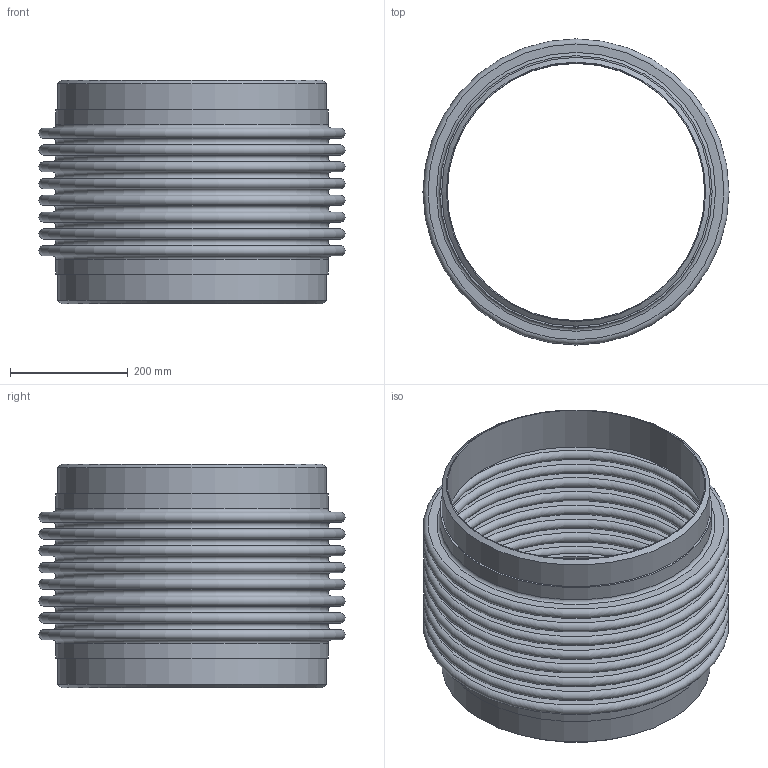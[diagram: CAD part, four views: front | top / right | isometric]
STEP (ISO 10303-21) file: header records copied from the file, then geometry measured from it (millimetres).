
FILE_DESCRIPTION(/* description */ ('EXPANSION JOINT,SINGLE, WELD ENDS,4 INCH NOMINAL'),/* implementation_level */ '2;1');
FILE_NAME(/* name */ 'US-18-300S- WELD-ENDS.stp',/* time_stamp */ '2026-07-28T11:14:14-05:00',/* author */ ('jorgef'),/* organization */ (''),/* preprocessor_version */ 'ST-DEVELOPER v20.1',/* originating_system */ 'Autodesk Inventor 2026',/* authorisation */ '');
FILE_SCHEMA (('AUTOMOTIVE_DESIGN { 1 0 10303 214 3 1 1 }'));
Length unit declared in the file: inch
Products named in the file (3): SINGLE STOCK  BELLOW WELDED ENDS  18-300 PSIG; STOCK BELLOW - US-18-8-300S; PIPE- 18-300 PSIG
Assembly tree (3 placements, depth 2):
  SINGLE STOCK  BELLOW WELDED ENDS  18-300 PSIG
    STOCK BELLOW - US-18-8-300S
    PIPE- 18-300 PSIG  x2
Bounding box: 520.7 x 520.7 x 381 mm (x, y, z)
Volume: 4957846.7 mm3; surface area: 2455650.1 mm2
Topology: 5 solids, 5 shells, 86 faces, 132 edges, 89 vertices
Faces by surface type: plane 42, torus 34, cylinder 8, cone 2
Full cylindrical faces by diameter (mm): 438.15 x2, 457.2 x4, 463.296 x2
Entity records: 2033 total; most frequent: DIRECTION 413, CARTESIAN_POINT 293, ORIENTED_EDGE 246, AXIS2_PLACEMENT_3D 203, EDGE_CURVE 123, EDGE_LOOP 121, CIRCLE 116, VERTEX_POINT 82
